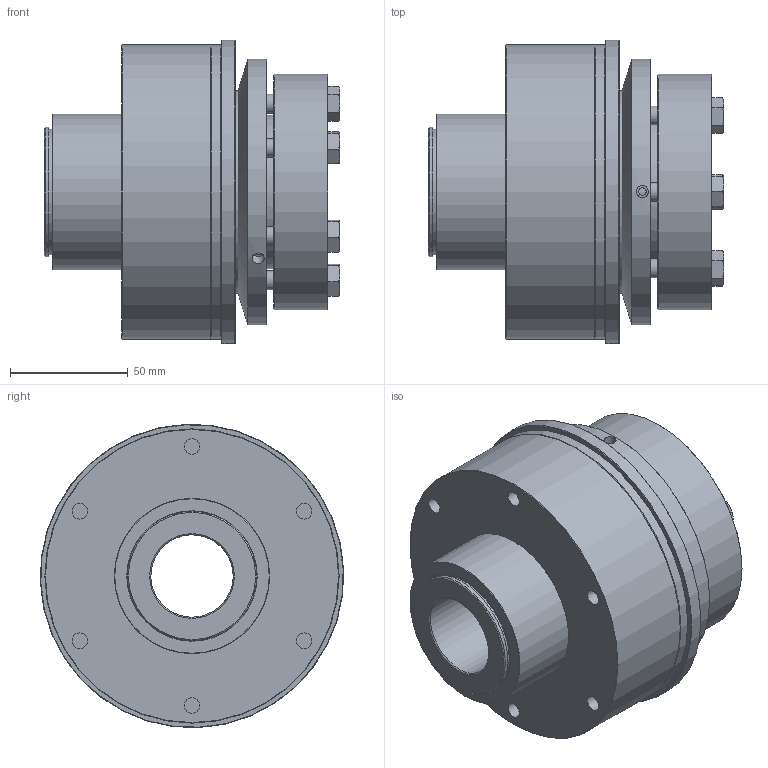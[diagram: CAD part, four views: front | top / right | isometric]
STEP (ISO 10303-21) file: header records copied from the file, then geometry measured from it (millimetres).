
FILE_DESCRIPTION( ( 'Unknown' ), '1' );
FILE_NAME( 'C:/Users/TWalzel/Documents/CAD-Daten/KBK-CA/500/KBK C-A-500.stp', 'Unknown', ( 'Unknown' ), ( 'Unknown' ), 'PSStep 16.0.42', 'Unknown', ' ' );
FILE_SCHEMA( ( 'AUTOMOTIVE_DESIGN { 1 0 10303 214 1 1 1 1 }' ) );
Length unit declared in the file: millimetre
Products named in the file (11): Druckring L-A-500; Stellring 500; Druckring 500; din_en_24017_m8x35; Assem1; Flansch-Gleitlager  CK-500; Grundkörper C-A-500_1
Assembly tree (15 placements, depth 3):
  Assem1
    Flansch-Gleitlager  CK-500
    Grundkörper C-A-500_1
    Stellring 500
      Stellring 500
    Druckring 500
      Druckring 500
    Druckring L-A-500
      Druckring L-A-500
    din_en_24017_m8x35  x6
      din_en_24017_m8x35
Bounding box: 125.65 x 128.86 x 128.86 mm (x, y, z)
Volume: 878141.6 mm3; surface area: 178197 mm2
Topology: 11 solids, 11 shells, 262 faces, 549 edges, 349 vertices
Faces by surface type: plane 115, cone 78, cylinder 61, torus 8
Full cylindrical faces by diameter (mm): 3.242 x3, 5.1 x3, 5.2 x3, 6.647 x18, 8 x6, 8.5 x6, 11.63 x6, 35 x1, 53.5 x1, 55 x3, 65.111 x1, 66 x1, 86 x2, 100 x1, 104.5 x1, 113 x1, 114 x1, 125 x2, 129 x1
Entity records: 5376 total; most frequent: CARTESIAN_POINT 1000, DIRECTION 680, ORIENTED_EDGE 432, AXIS2_PLACEMENT_3D 318, EDGE_LOOP 284, EDGE_CURVE 216, FACE_OUTER_BOUND 206, VERTEX_POINT 180
